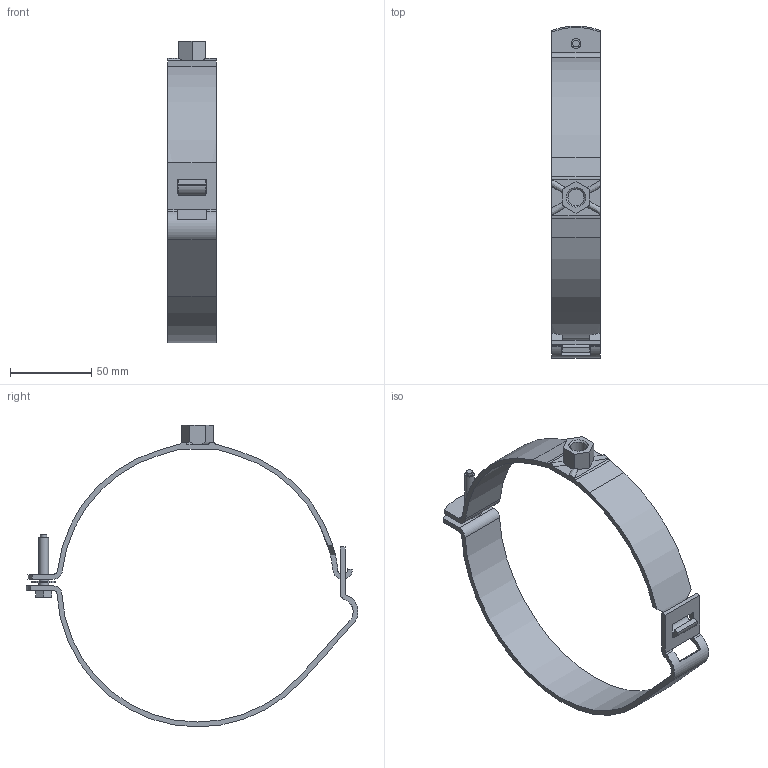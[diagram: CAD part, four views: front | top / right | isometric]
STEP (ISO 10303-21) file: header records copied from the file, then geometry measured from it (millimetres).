
FILE_DESCRIPTION(/* description */ (''),/* implementation_level */ '2;1');
FILE_NAME(/* name */ 'H:\Geberit-Teile\Export\369.843.00.2\stp\369843.stp',/* time_stamp */ '2016-09-09T13:16:22+02:00',/* author */ ('seihe2'),/* organization */ (''),/* preprocessor_version */ 'ST-DEVELOPER v15.2',/* originating_system */ 'Autodesk Inventor 2014',/* authorisation */ '');
FILE_SCHEMA (('AUTOMOTIVE_DESIGN { 1 0 10303 214 3 1 1 }'));
Length unit declared in the file: millimetre
Products named in the file (1): 369843
Bounding box: 30 x 204.75 x 186.2 mm (x, y, z)
Volume: 55624.8 mm3; surface area: 41219.3 mm2
Topology: 1 solids, 1 shells, 99 faces, 279 edges, 185 vertices
Faces by surface type: plane 61, cylinder 33, bspline 4, cone 1
Full cylindrical faces by diameter (mm): 4 x1, 6 x3, 10 x1, 15 x1
Entity records: 3328 total; most frequent: CARTESIAN_POINT 589, DIRECTION 555, ORIENTED_EDGE 540, EDGE_CURVE 270, AXIS2_PLACEMENT_3D 189, VERTEX_POINT 183, LINE 177, VECTOR 177
